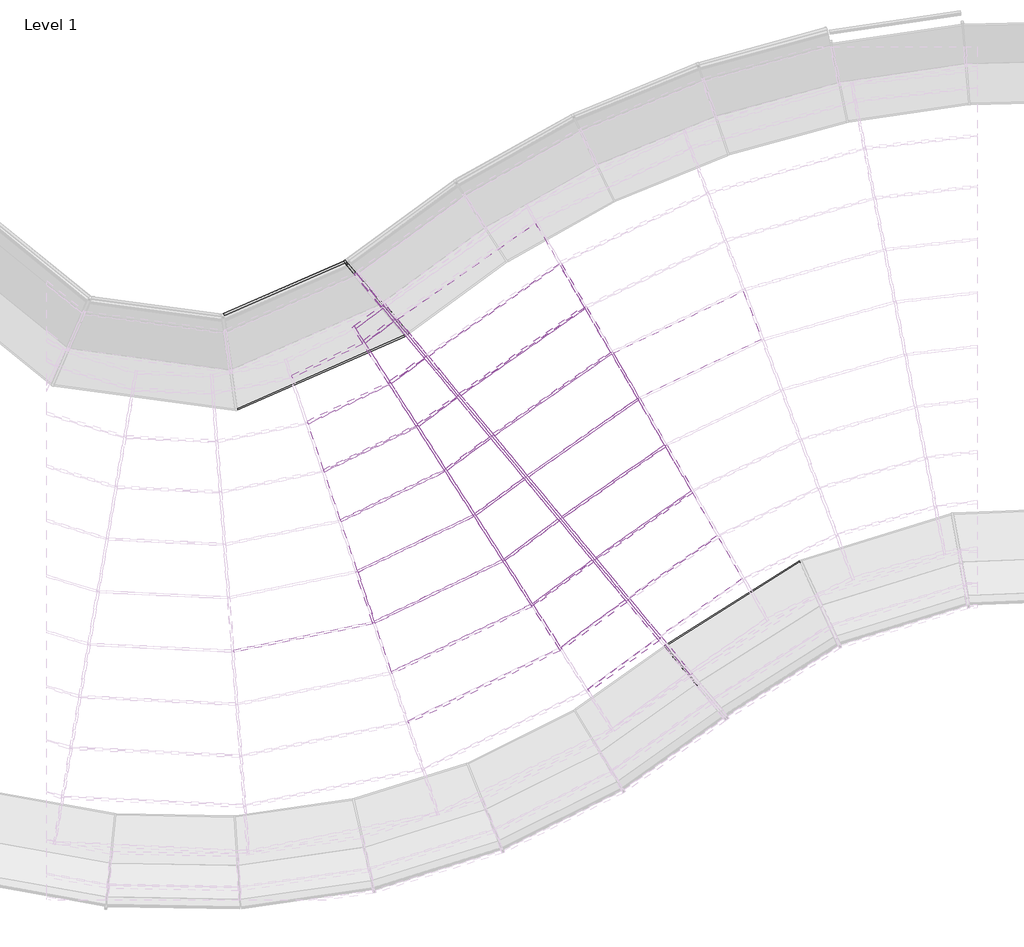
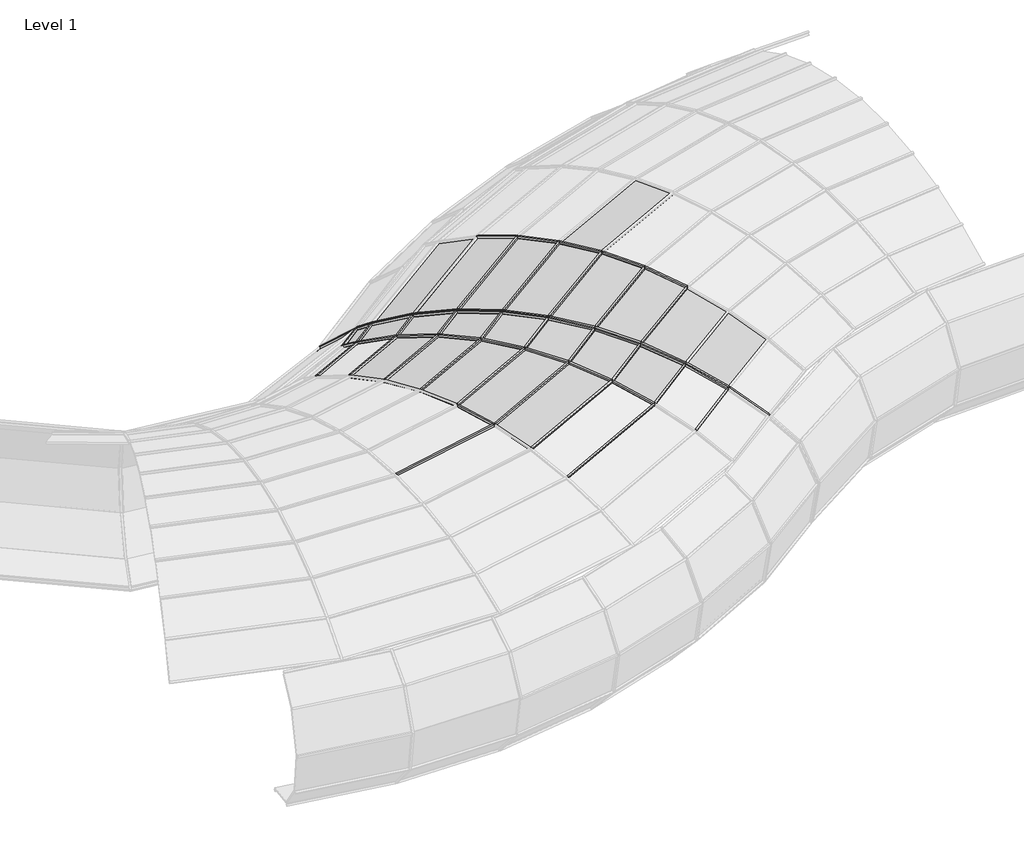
# One storey, part 7 of 23: 70 members, 22 plates.
"""IFC4 building model written with IfcOpenShell, lengths in millimetres."""

from ifc_helpers import new_model, si_unit, origin, place, context, project, spatial, transform, mapped, element, save
from components import member_da94d8b7, member_4a6620f8, member_4382594b, member_c4b67a82, member_09e3c60a, member_ff354828, member_c876edb5, member_88ffdf74, member_782630c7, member_6b724055, member_398e5ff5, member_61362789, member_0ea93e7c, member_4ad77235, member_01d9c279, member_724b312c, member_398607d0, member_12c77cbe, member_6b55b28e, member_04fa56c0, member_b16b9eb4, member_5ccaa950, member_ed473375, member_1e977d90, member_299080b6, member_172ab1ab, member_54499f2f, member_173a6c74, member_0cd36c09, member_d0a40a1c, member_ff9adfd2, member_8c9da58c, member_d6b8231b, member_916b48e0, member_15ddbe85, member_a6ff0e58, member_52a3ac57, member_58e85060, member_2f10e2aa, member_56cded33, member_ca6af547, member_2c27c1a6, member_cfe416e1, member_072b4eca, member_8050fb01, member_9defe418, member_57d99a8e, member_3bb0283d, member_54c9b6a8, member_1f55a63e, member_9f1fe171, member_9a79e7da, member_69edc900, system_panel_glazed_5132798e, system_panel_glazed_5b1ce257, system_panel_glazed_553bac9a, system_panel_glazed_7bf4cd1b, system_panel_glazed_fa5f9ab5, system_panel_glazed_9f229a92, system_panel_glazed_4f662df8, system_panel_glazed_a07c5774, system_panel_glazed_979220de, system_panel_glazed_4fd85c75, system_panel_glazed_ba917089, system_panel_glazed_62a807d2, system_panel_glazed_1a760a1a, system_panel_glazed_c234d933, system_panel_glazed_45c6f521, system_panel_glazed_a7bfc9ff, system_panel_glazed_a075d488, system_panel_glazed_9f62a084, system_panel_glazed_71638be0, system_panel_glazed_9237dc49, system_panel_glazed_82596321, system_panel_glazed_82ed8812

model = new_model("IFC4")

# Units and contexts
model_context = context("Model", 3, world=origin())
ifc_project = project(units=[si_unit("LENGTHUNIT", "METRE", prefix="MILLI")], contexts=[model_context])

# Site, building, storey
site = spatial("IfcSite", under=ifc_project)
building = spatial("IfcBuilding", under=site)
storey = spatial("IfcBuildingStorey", under=building, Name="Level 1", Elevation=0.0)

# Members
placement = place(None, origin())
member_shape = member_da94d8b7(model_context)
element("IfcMember", 1, ObjectType="Rectangular Mullion : 1\" Square", at=placement, inside=storey, context=model_context, shape_type="MappedRepresentation", body=[
    mapped(member_shape, transform((-4489.9913896, -7841.6452562, 0.0), x_axis=(-0.5112600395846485, 0.8116646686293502, -0.2825130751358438), y_axis=(0.1505714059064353, -0.23904369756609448, -0.9592634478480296), z_axis=(-0.8461332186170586, -0.5329714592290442, 0.0))),
])
member_2_shape = member_4a6620f8(model_context)
element("IfcMember", 2, ObjectType="Rectangular Mullion : 1\" Square", at=placement, inside=storey, context=model_context, shape_type="MappedRepresentation", body=[
    mapped(member_2_shape, transform((-4518.8359646, -5597.6563841, 2850.17796), x_axis=(-0.5707204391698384, 0.8169353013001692, 0.08303549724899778), y_axis=(0.047554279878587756, -0.06806970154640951, 0.9965465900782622), z_axis=(0.8197662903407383, 0.5726982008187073, 0.0))),
])
member_3_shape = member_4382594b(model_context)
element("IfcMember", 3, ObjectType="Rectangular Mullion : 1\" Square", at=placement, inside=storey, context=model_context, shape_type="MappedRepresentation", body=[
    mapped(member_3_shape, transform((-4825.2923278, -5070.8823003, 2864.5209769), x_axis=(-0.5723308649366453, 0.8192404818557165, -0.03581080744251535), y_axis=(-0.02050878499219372, 0.02935649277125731, 0.999358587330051), z_axis=(0.8197662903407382, 0.5726982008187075, 0.0))),
])
member_4_shape = member_c4b67a82(model_context)
element("IfcMember", 4, ObjectType="Rectangular Mullion : 1\" Square", at=placement, inside=storey, context=model_context, shape_type="MappedRepresentation", body=[
    mapped(member_4_shape, transform((-5130.4275491, -4546.3791542, 2806.2019711), x_axis=(-0.5658522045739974, 0.8099668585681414, -0.15415891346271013), y_axis=(-0.08828653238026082, 0.12637428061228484, 0.9880460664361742), z_axis=(0.8197662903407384, 0.5726982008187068, 0.0))),
])
member_5_shape = member_09e3c60a(model_context)
element("IfcMember", 5, ObjectType="Rectangular Mullion : 1\" Square", at=placement, inside=storey, context=model_context, shape_type="MappedRepresentation", body=[
    mapped(member_5_shape, transform((-5429.9006784, -4031.6086934, 2676.0506073), x_axis=(-0.5513709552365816, 0.7892382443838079, -0.27035728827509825), y_axis=(-0.1548331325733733, 0.22162979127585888, 0.9627600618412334), z_axis=(0.8197662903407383, 0.5726982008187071, 0.0))),
])
member_6_shape = member_ff354828(model_context)
element("IfcMember", 6, ObjectType="Rectangular Mullion : 1\" Square", at=placement, inside=storey, context=model_context, shape_type="MappedRepresentation", body=[
    mapped(member_6_shape, transform((-4215.4182046, -6119.2073508, 2763.3769688), x_axis=(-0.5610427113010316, 0.8030824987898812, 0.20072263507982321), y_axis=(0.11495349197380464, -0.16454564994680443, 0.9796481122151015), z_axis=(0.8197662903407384, 0.5726982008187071, 0.0))),
])
member_7_shape = member_c876edb5(model_context)
element("IfcMember", 7, ObjectType="Rectangular Mullion : 1\" Square", at=placement, inside=storey, context=model_context, shape_type="MappedRepresentation", body=[
    mapped(member_7_shape, transform((-7335.7836729, -5376.3649008, 2676.0506073), x_axis=(-0.4169348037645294, 0.8679644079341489, -0.26982059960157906), y_axis=(-0.1168307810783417, 0.24321538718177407, 0.9629106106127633), z_axis=(0.9013966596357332, 0.4329942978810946, 0.0))),
])
member_8_shape = member_88ffdf74(model_context)
element("IfcMember", 8, ObjectType="Rectangular Mullion : 1\" Square", at=placement, inside=storey, context=model_context, shape_type="MappedRepresentation", body=[
    mapped(member_8_shape, transform((-6877.5951271, -5043.676963, 2676.0506073), x_axis=(-0.5687139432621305, 0.7765169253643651, -0.27126723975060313), y_axis=(-0.16028343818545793, 0.21884957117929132, 0.9625040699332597), z_axis=(0.806767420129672, 0.590869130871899, 0.0))),
])
member_9_shape = member_782630c7(model_context)
element("IfcMember", 9, ObjectType="Rectangular Mullion : 1\" Square", at=placement, inside=storey, context=model_context, shape_type="MappedRepresentation", body=[
    mapped(member_9_shape, transform((-7647.2779636, -4892.0813161, 2475.91846), x_axis=(-0.40017197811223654, 0.8330679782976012, -0.381916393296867), y_axis=(-0.1653676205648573, 0.3442581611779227, 0.9241968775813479), z_axis=(0.9013966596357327, 0.4329942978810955, 0.0))),
])
member_10_shape = member_6b724055(model_context)
element("IfcMember", 10, ObjectType="Rectangular Mullion : 1\" Square", at=placement, inside=storey, context=model_context, shape_type="MappedRepresentation", body=[
    mapped(member_10_shape, transform((-7245.3126771, -4600.5707826, 2475.91846), x_axis=(-0.5456170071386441, 0.7449805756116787, -0.3838046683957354), y_axis=(-0.2267783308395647, 0.30964110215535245, 0.9234143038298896), z_axis=(0.8067674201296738, 0.5908691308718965, 0.0))),
])
member_11_shape = member_398e5ff5(model_context)
element("IfcMember", 11, ObjectType="Rectangular Mullion : 1\" Square", at=placement, inside=storey, context=model_context, shape_type="MappedRepresentation", body=[
    mapped(member_11_shape, transform((-7943.6663686, -4431.2830173, 2208.6526723), x_axis=(-0.37774860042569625, 0.786387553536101, -0.4887746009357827), y_axis=(-0.21163661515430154, 0.44057979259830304, 0.8724101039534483), z_axis=(0.9013966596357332, 0.43299429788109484, 0.0))),
])
member_12_shape = member_61362789(model_context)
element("IfcMember", 12, ObjectType="Rectangular Mullion : 1\" Square", at=placement, inside=storey, context=model_context, shape_type="MappedRepresentation", body=[
    mapped(member_12_shape, transform((-7595.1977998, -4178.9529941, 2208.6526723), x_axis=(-0.5147657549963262, 0.7028565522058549, -0.49092655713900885), y_axis=(-0.290073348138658, 0.3960635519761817, 0.8712009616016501), z_axis=(0.8067674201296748, 0.5908691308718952, 0.0))),
])
member_13_shape = member_0ea93e7c(model_context)
element("IfcMember", 13, ObjectType="Rectangular Mullion : 1\" Square", at=placement, inside=storey, context=model_context, shape_type="MappedRepresentation", body=[
    mapped(member_13_shape, transform((-6029.2614025, -7407.6293815, 2763.3769688), x_axis=(-0.4242954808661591, 0.8832876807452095, 0.19943976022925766), y_axis=(0.08635627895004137, -0.17977433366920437, 0.9799100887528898), z_axis=(0.901396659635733, 0.4329942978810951, 0.0))),
])
member_14_shape = member_4ad77235(model_context)
element("IfcMember", 14, ObjectType="Rectangular Mullion : 1\" Square", at=placement, inside=storey, context=model_context, shape_type="MappedRepresentation", body=[
    mapped(member_14_shape, transform((-5335.2517115, -6902.2281787, 2763.3769688), x_axis=(-0.5788620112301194, 0.7903730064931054, 0.20057238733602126), y_axis=(0.11851203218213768, -0.16181526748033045, 0.9796788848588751), z_axis=(0.8067674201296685, 0.5908691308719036, 0.0))),
])
member_15_shape = member_01d9c279(model_context)
element("IfcMember", 15, ObjectType="Rectangular Mullion : 1\" Square", at=placement, inside=storey, context=model_context, shape_type="MappedRepresentation", body=[
    mapped(member_15_shape, transform((-7824.936967, -7602.4746403, 2850.17796), x_axis=(-0.1982577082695, 0.9766974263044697, 0.08219500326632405), y_axis=(0.016351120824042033, -0.08055221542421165, 0.9966162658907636), z_axis=(0.9800135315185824, 0.19893083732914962, 0.0))),
])
element("IfcMember", 16, ObjectType="Rectangular Mullion : 1\" Square", at=placement, inside=storey, context=model_context, shape_type="MappedRepresentation", body=[
    mapped(member_15_shape, transform((-6355.6737379, -6900.1525493, 2850.17796), x_axis=(-0.43152916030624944, 0.898346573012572, 0.08219500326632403), y_axis=(0.03558996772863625, -0.07409030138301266, 0.9966162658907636), z_axis=(0.9013966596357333, 0.43299429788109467, 0.0))),
])
member_16_shape = member_724b312c(model_context)
element("IfcMember", 17, ObjectType="Rectangular Mullion : 1\" Square", at=placement, inside=storey, context=model_context, shape_type="MappedRepresentation", body=[
    mapped(member_16_shape, transform((-5720.5799434, -6437.900814, 2850.17796), x_axis=(-0.5888457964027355, 0.8040047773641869, 0.08268582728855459), y_axis=(0.04885650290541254, -0.06670823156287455, 0.9965756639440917), z_axis=(0.8067674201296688, 0.5908691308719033, 0.0))),
])
member_17_shape = member_398607d0(model_context)
element("IfcMember", 18, ObjectType="Rectangular Mullion : 1\" Square", at=placement, inside=storey, context=model_context, shape_type="MappedRepresentation", body=[
    mapped(member_17_shape, transform((-6685.3549578, -6387.5935467, 2864.5209769), x_axis=(-0.43271099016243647, 0.9008068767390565, -0.036168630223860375), y_axis=(-0.015660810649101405, 0.03260228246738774, 0.9993457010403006), z_axis=(0.9013966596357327, 0.43299429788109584, 0.0))),
])
member_18_shape = member_12c77cbe(model_context)
element("IfcMember", 19, ObjectType="Rectangular Mullion : 1\" Square", at=placement, inside=storey, context=model_context, shape_type="MappedRepresentation", body=[
    mapped(member_18_shape, transform((-5710.7615966, -7902.8045174, 2605.3528615), x_axis=(-0.41109956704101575, 0.855816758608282, 0.31396627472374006), y_axis=(0.13594560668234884, -0.28300815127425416, 0.9494341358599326), z_axis=(0.901396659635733, 0.43299429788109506, 0.0))),
])
member_19_shape = member_6b55b28e(model_context)
element("IfcMember", 20, ObjectType="Rectangular Mullion : 1\" Square", at=placement, inside=storey, context=model_context, shape_type="MappedRepresentation", body=[
    mapped(member_19_shape, transform((-4959.2641837, -7355.2998292, 2605.3528615), x_axis=(-0.5606647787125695, 0.7655266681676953, 0.3156325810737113), y_axis=(0.18649754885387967, -0.25464208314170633, 0.9488814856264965), z_axis=(0.806767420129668, 0.5908691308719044, 0.0))),
])
member_20_shape = member_04fa56c0(model_context)
element("IfcMember", 21, ObjectType="Rectangular Mullion : 1\" Square", at=placement, inside=storey, context=model_context, shape_type="MappedRepresentation", body=[
    mapped(member_20_shape, transform((-4597.9662774, -7790.6702248, 2378.3537392), x_axis=(-0.5345056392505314, 0.729809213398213, 0.42624198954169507), y_axis=(0.2518532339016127, -0.3438781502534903, 0.9046091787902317), z_axis=(0.8067674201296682, 0.5908691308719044, 0.0))),
])
member_21_shape = member_b16b9eb4(model_context)
element("IfcMember", 22, ObjectType="Rectangular Mullion : 1\" Square", at=placement, inside=storey, context=model_context, shape_type="MappedRepresentation", body=[
    mapped(member_21_shape, transform((-6109.7670779, -5968.9234028, 2864.5209769), x_axis=(-0.5904782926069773, 0.8062337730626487, -0.0363660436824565), y_axis=(-0.021487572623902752, 0.02933893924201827, 0.9993385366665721), z_axis=(0.8067674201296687, 0.5908691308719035, 0.0))),
])
member_22_shape = member_5ccaa950(model_context)
element("IfcMember", 23, ObjectType="Rectangular Mullion : 1\" Square", at=placement, inside=storey, context=model_context, shape_type="MappedRepresentation", body=[
    mapped(member_22_shape, transform((-7013.6149127, -5877.2442002, 2806.2019711), x_axis=(-0.4278261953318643, 0.8906378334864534, -0.1540421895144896), y_axis=(-0.06669938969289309, 0.13885311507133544, 0.9880642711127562), z_axis=(0.9013966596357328, 0.43299429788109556, 0.0))),
])
member_23_shape = member_ed473375(model_context)
element("IfcMember", 24, ObjectType="Rectangular Mullion : 1\" Square", at=placement, inside=storey, context=model_context, shape_type="MappedRepresentation", body=[
    mapped(member_23_shape, transform((-6497.276416, -5501.9677663, 2806.2019711), x_axis=(-0.5837367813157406, 0.7970289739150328, -0.15490702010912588), y_axis=(-0.09152977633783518, 0.12497393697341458, 0.9879290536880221), z_axis=(0.806767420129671, 0.5908691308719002, 0.0))),
])
member_24_shape = member_1e977d90(model_context)
element("IfcMember", 25, ObjectType="Rectangular Mullion : 1\" Square", at=placement, inside=storey, context=model_context, shape_type="MappedRepresentation", body=[
    mapped(member_24_shape, transform((-7727.1639888, -4019.9313919, 2085.6089632), x_axis=(-0.5074428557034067, 0.6928579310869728, -0.5122983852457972), y_axis=(-0.3027013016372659, 0.4133056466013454, 0.8588075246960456), z_axis=(0.8067674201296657, 0.5908691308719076, 0.0))),
])
member_25_shape = member_299080b6(model_context)
element("IfcMember", 26, ObjectType="Rectangular Mullion : 1\" Square", at=placement, inside=storey, context=model_context, shape_type="MappedRepresentation", body=[
    mapped(member_25_shape, transform((-8148.9438553, -3515.3209351, 1116.1918244), x_axis=(-0.011000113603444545, 0.025056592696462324, -0.9996255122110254), y_axis=(-0.4018290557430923, 0.915305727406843, 0.02736485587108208), z_axis=(0.9156486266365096, 0.40197959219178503, 0.0))),
])
member_26_shape = member_172ab1ab(model_context)
element("IfcMember", 27, ObjectType="Rectangular Mullion : 1\" Square", at=placement, inside=storey, context=model_context, shape_type="MappedRepresentation", body=[
    mapped(member_26_shape, transform((-7459.38962, -4355.6536205, 0.0), x_axis=(0.3905545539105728, -0.8896241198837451, -0.23671938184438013), y_axis=(-0.09515636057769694, 0.21675177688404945, -0.9715780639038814), z_axis=(0.9156486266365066, 0.4019795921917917, 0.0))),
])
member_27_shape = member_54499f2f(model_context)
element("IfcMember", 28, ObjectType="Rectangular Mullion : 1\" Square", at=placement, inside=storey, context=model_context, shape_type="MappedRepresentation", body=[
    mapped(member_27_shape, transform((-8050.414729, -3635.3945146, 526.7119632), x_axis=(0.21232057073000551, -0.48363410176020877, -0.8491278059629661), y_axis=(-0.341332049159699, 0.7775027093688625, -0.5281874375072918), z_axis=(0.9156486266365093, 0.4019795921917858, 0.0))),
])
member_28_shape = member_173a6c74(model_context)
element("IfcMember", 29, ObjectType="Rectangular Mullion : 1\" Square", at=placement, inside=storey, context=model_context, shape_type="MappedRepresentation", body=[
    mapped(member_28_shape, transform((-5700.0880509, -6422.892738, 2850.17796), x_axis=(0.7695535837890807, 0.6385806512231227, 0.001426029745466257), y_axis=(0.013927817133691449, -0.01901691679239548, 0.9997221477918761), z_axis=(0.6384303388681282, -0.7693199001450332, -0.023528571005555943))),
])
member_29_shape = member_0cd36c09(model_context)
element("IfcMember", 30, ObjectType="Rectangular Mullion : 1\" Square", at=placement, inside=storey, context=model_context, shape_type="MappedRepresentation", body=[
    mapped(member_29_shape, transform((-4205.0071727, -6111.9340836, 2763.3769688), x_axis=(0.8643700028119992, 0.5028563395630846, 0.0), y_axis=(0.07160175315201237, -0.12307771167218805, 0.9898106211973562), z_axis=(0.4977325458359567, -0.8555626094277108, -0.14239007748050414))),
])
element("IfcMember", 31, ObjectType="Rectangular Mullion : 1\" Square", at=placement, inside=storey, context=model_context, shape_type="MappedRepresentation", body=[
    mapped(member_29_shape, transform((-4508.4249327, -5590.3831169, 2850.17796), x_axis=(0.8643700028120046, 0.5028563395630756, 0.0), y_axis=(0.011831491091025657, -0.020337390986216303, 0.9997231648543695), z_axis=(0.5027171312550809, -0.8641307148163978, -0.023528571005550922))),
])
element("IfcMember", 32, ObjectType="Rectangular Mullion : 1\" Square", at=placement, inside=storey, context=model_context, shape_type="MappedRepresentation", body=[
    mapped(member_29_shape, transform((-7812.4907951, -7599.9482187, 2850.17796), x_axis=(0.9479570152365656, 0.31839833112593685, 0.0), y_axis=(0.007491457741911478, -0.022304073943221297, 0.9997231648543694), z_axis=(0.31831018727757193, -0.9476945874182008, -0.02352857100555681))),
])
element("IfcMember", 33, ObjectType="Rectangular Mullion : 1\" Square", at=placement, inside=storey, context=model_context, shape_type="MappedRepresentation", body=[
    mapped(member_29_shape, transform((-5699.3138591, -7897.3054898, 2605.3528615), x_axis=(0.841044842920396, 0.5409654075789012, 0.0), y_axis=(0.1402322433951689, -0.218020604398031, 0.965816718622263), z_axis=(0.5224734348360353, -0.8122951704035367, -0.259225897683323))),
])
element("IfcMember", 34, ObjectType="Rectangular Mullion : 1\" Square", at=placement, inside=storey, context=model_context, shape_type="MappedRepresentation", body=[
    mapped(member_29_shape, transform((-6017.813665, -7402.1303539, 2763.3769688), x_axis=(0.8410448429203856, 0.5409654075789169, 0.0), y_axis=(0.07702810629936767, -0.11975644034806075, 0.9898106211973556), z_axis=(0.5354533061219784, -0.8324751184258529, -0.14239007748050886))),
])
element("IfcMember", 35, ObjectType="Rectangular Mullion : 1\" Square", at=placement, inside=storey, context=model_context, shape_type="MappedRepresentation", body=[
    mapped(member_29_shape, transform((-6344.2260004, -6894.6535217, 2850.17796), x_axis=(0.8410448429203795, 0.5409654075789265, 0.0), y_axis=(0.012728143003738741, -0.019788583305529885, 0.9997231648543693), z_axis=(0.5408156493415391, -0.8408120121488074, -0.023528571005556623))),
])
element("IfcMember", 36, ObjectType="Rectangular Mullion : 1\" Square", at=placement, inside=storey, context=model_context, shape_type="MappedRepresentation", body=[
    mapped(member_29_shape, transform((-4814.8812959, -5063.6090332, 2864.5209769), x_axis=(0.8643700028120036, 0.5028563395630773, 0.0), y_axis=(-0.04810708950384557, 0.08269225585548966, 0.9954133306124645), z_axis=(0.5005499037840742, -0.8604054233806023, 0.09566766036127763))),
])
element("IfcMember", 37, ObjectType="Rectangular Mullion : 1\" Square", at=placement, inside=storey, context=model_context, shape_type="MappedRepresentation", body=[
    mapped(member_29_shape, transform((-5120.0165172, -4539.1058871, 2806.2019711), x_axis=(0.8643700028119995, 0.5028563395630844, 0.0), y_axis=(-0.10736128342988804, 0.18454549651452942, 0.9769424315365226), z_axis=(0.4912616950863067, -0.8444397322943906, 0.21350289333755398))),
])
element("IfcMember", 38, ObjectType="Rectangular Mullion : 1\" Square", at=placement, inside=storey, context=model_context, shape_type="MappedRepresentation", body=[
    mapped(member_29_shape, transform((-5419.4896466, -4024.3354263, 2676.0506073), x_axis=(0.8643700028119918, 0.5028563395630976, 0.0), y_axis=(-0.16508812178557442, 0.2837733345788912, 0.9445732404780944), z_axis=(0.4749846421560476, -0.8164607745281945, 0.3283007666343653))),
])
element("IfcMember", 39, ObjectType="Rectangular Mullion : 1\" Square", at=placement, inside=storey, context=model_context, shape_type="MappedRepresentation", body=[
    mapped(member_29_shape, transform((-6673.9072202, -6382.0945191, 2864.5209769), x_axis=(0.8410448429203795, 0.5409654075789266, 0.0), y_axis=(-0.05175289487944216, 0.0804607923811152, 0.995413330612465), z_axis=(0.5384841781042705, -0.8371872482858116, 0.09566766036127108))),
])
element("IfcMember", 40, ObjectType="Rectangular Mullion : 1\" Square", at=placement, inside=storey, context=model_context, shape_type="MappedRepresentation", body=[
    mapped(member_29_shape, transform((-7002.1671752, -5871.7451726, 2806.2019711), x_axis=(0.8410448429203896, 0.540965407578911, 0.0), y_axis=(-0.11549767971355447, 0.17956550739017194, 0.9769424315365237), z_axis=(0.5284920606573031, -0.8216523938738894, 0.21350289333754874))),
])
element("IfcMember", 41, ObjectType="Rectangular Mullion : 1\" Square", at=placement, inside=storey, context=model_context, shape_type="MappedRepresentation", body=[
    mapped(member_29_shape, transform((-7324.3359353, -5370.8658733, 2676.0506073), x_axis=(0.8410448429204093, 0.5409654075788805, 0.0), y_axis=(-0.17759935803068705, 0.2761156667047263, 0.9445732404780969), z_axis=(0.5109814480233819, -0.7944284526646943, 0.3283007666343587))),
])
member_30_shape = member_d0a40a1c(model_context)
element("IfcMember", 42, ObjectType="Rectangular Mullion : 1\" Square", at=placement, inside=storey, context=model_context, shape_type="MappedRepresentation", body=[
    mapped(member_30_shape, transform((-7635.8302261, -4886.5822885, 2475.91846), x_axis=(0.841044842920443, 0.5409654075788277, 0.0), y_axis=(-0.23717445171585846, 0.36873771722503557, 0.8987662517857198), z_axis=(0.4862014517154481, -0.7559027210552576, 0.4384281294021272))),
])
member_31_shape = member_ff9adfd2(model_context)
element("IfcMember", 43, ObjectType="Rectangular Mullion : 1\" Square", at=placement, inside=storey, context=model_context, shape_type="MappedRepresentation", body=[
    mapped(member_31_shape, transform((-7932.218631, -4425.7839898, 2208.6526723), x_axis=(0.8410448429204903, 0.5409654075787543, 0.0), y_axis=(-0.2767608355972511, 0.4302831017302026, 0.8592205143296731), z_axis=(0.46480857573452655, -0.7226429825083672, 0.5116054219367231))),
])
member_32_shape = member_8c9da58c(model_context)
element("IfcMember", 44, ObjectType="Rectangular Mullion : 1\" Square", at=placement, inside=storey, context=model_context, shape_type="MappedRepresentation", body=[
    mapped(member_32_shape, transform((-8019.1399957, -3654.2311779, 1696.6281859), x_axis=(0.773050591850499, 0.6343443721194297, 0.0), y_axis=(-0.6039969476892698, 0.7360673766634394, 0.30560187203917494), z_axis=(0.1938568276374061, -0.2362457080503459, 0.9521593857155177))),
])
element("IfcMember", 45, ObjectType="Rectangular Mullion : 1\" Square", at=placement, inside=storey, context=model_context, shape_type="MappedRepresentation", body=[
    mapped(member_32_shape, transform((-8137.3151178, -3510.2157943, 1116.1918244), x_axis=(0.7730505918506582, 0.6343443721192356, 0.0), y_axis=(-0.6134075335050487, 0.7475356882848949, -0.25479715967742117), z_axis=(-0.16162914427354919, 0.19697109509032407, 0.9669945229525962))),
])
member_33_shape = member_d6b8231b(model_context)
element("IfcMember", 46, ObjectType="Rectangular Mullion : 1\" Square", at=placement, inside=storey, context=model_context, shape_type="MappedRepresentation", body=[
    mapped(member_33_shape, transform((-7721.3991846, -4017.0762197, 2085.6089632), x_axis=(0.773050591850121, 0.63434437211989, 0.0), y_axis=(-0.4047699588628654, 0.4932772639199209, 0.7699602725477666), z_axis=(0.48841996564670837, -0.5952182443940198, 0.6380918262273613))),
])
member_34_shape = member_916b48e0(model_context)
element("IfcMember", 47, ObjectType="Rectangular Mullion : 1\" Square", at=placement, inside=storey, context=model_context, shape_type="MappedRepresentation", body=[
    mapped(member_34_shape, transform((-7706.6720964, -4004.923316, 2085.6089632), x_axis=(-0.7827135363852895, -0.6213115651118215, 0.03648916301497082), y_axis=(-0.29373978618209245, 0.42046225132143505, 0.8584453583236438), z_axis=(-0.548704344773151, 0.661198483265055, -0.5116054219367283))),
])
member_35_shape = member_15ddbe85(model_context)
element("IfcMember", 48, ObjectType="Rectangular Mullion : 1\" Square", at=placement, inside=storey, context=model_context, shape_type="MappedRepresentation", body=[
    mapped(member_35_shape, transform((-4577.4743849, -7775.6621489, 2378.3537392), x_axis=(-0.7811473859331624, -0.6233665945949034, -0.03496927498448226), y_axis=(0.2757518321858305, -0.3947141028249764, 0.8764483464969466), z_axis=(-0.5601514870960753, 0.6749924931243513, 0.4802243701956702))),
])
member_36_shape = member_a6ff0e58(model_context)
element("IfcMember", 49, ObjectType="Rectangular Mullion : 1\" Square", at=placement, inside=storey, context=model_context, shape_type="MappedRepresentation", body=[
    mapped(member_36_shape, transform((-4938.7722912, -7340.2917533, 2605.3528615), x_axis=(-0.7765185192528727, -0.6294404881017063, -0.028699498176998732), y_axis=(0.21389029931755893, -0.30616484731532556, 0.9276389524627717), z_axis=(-0.5926802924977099, 0.7141902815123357, 0.3723738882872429))),
])
member_37_shape = member_52a3ac57(model_context)
element("IfcMember", 50, ObjectType="Rectangular Mullion : 1\" Square", at=placement, inside=storey, context=model_context, shape_type="MappedRepresentation", body=[
    mapped(member_37_shape, transform((-5314.759819, -6887.2201028, 2763.3769688), x_axis=(-0.7729190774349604, -0.6341637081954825, -0.02079641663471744), y_axis=(0.14893518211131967, -0.21318740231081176, 0.9655927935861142), z_axis=(-0.6167774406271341, 0.7432277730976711, 0.2592258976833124))),
])
element("IfcMember", 51, ObjectType="Rectangular Mullion : 1\" Square", at=placement, inside=storey, context=model_context, shape_type="MappedRepresentation", body=[
    mapped(member_37_shape, transform((-6857.1032347, -5028.668887, 2676.0506073), x_axis=(0.7735525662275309, 0.6334533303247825, -0.018796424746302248), y_axis=(-0.19430046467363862, 0.265296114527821, 0.9443862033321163), z_axis=(0.6032112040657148, -0.7268802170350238, 0.32830076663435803))),
])
member_38_shape = member_58e85060(model_context)
element("IfcMember", 52, ObjectType="Rectangular Mullion : 1\" Square", at=placement, inside=storey, context=model_context, shape_type="MappedRepresentation", body=[
    mapped(member_38_shape, transform((-5700.0880509, -6422.892738, 2850.17796), x_axis=(-0.7705547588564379, -0.637266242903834, -0.011708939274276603), y_axis=(0.08182178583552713, -0.11712057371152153, 0.9897413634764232), z_axis=(-0.6321001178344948, 0.7616918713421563, 0.14239007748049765))),
])
element("IfcMember", 53, ObjectType="Rectangular Mullion : 1\" Square", at=placement, inside=storey, context=model_context, shape_type="MappedRepresentation", body=[
    mapped(member_38_shape, transform((-6476.7845235, -5486.9596904, 2806.2019711), x_axis=(0.7712331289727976, 0.6364272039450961, -0.012644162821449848), y_axis=(-0.12637330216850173, 0.17254897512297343, 0.9768606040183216), z_axis=(0.6238824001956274, -0.7517893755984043, 0.2135028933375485))),
])
member_39_shape = member_2f10e2aa(model_context)
element("IfcMember", 54, ObjectType="Rectangular Mullion : 1\" Square", at=placement, inside=storey, context=model_context, shape_type="MappedRepresentation", body=[
    mapped(member_39_shape, transform((-6089.2751855, -5953.9153269, 2864.5209769), x_axis=(-0.7695608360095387, -0.6385705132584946, -0.00195429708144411), y_axis=(0.013521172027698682, -0.019354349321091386, 0.9997212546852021), z_axis=(-0.6384303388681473, 0.7693199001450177, 0.023528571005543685))),
])
member_40_shape = member_56cded33(model_context)
element("IfcMember", 55, ObjectType="Rectangular Mullion : 1\" Square", at=placement, inside=storey, context=model_context, shape_type="MappedRepresentation", body=[
    mapped(member_40_shape, transform((-6476.7845235, -5486.9596904, 2806.2019711), x_axis=(-0.7699942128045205, -0.6380018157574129, 0.007911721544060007), y_axis=(-0.05497573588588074, 0.07869285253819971, 0.9953818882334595), z_axis=(-0.6356780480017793, 0.766003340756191, -0.09566766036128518))),
])
element("IfcMember", 56, ObjectType="Rectangular Mullion : 1\" Square", at=placement, inside=storey, context=model_context, shape_type="MappedRepresentation", body=[
    mapped(member_40_shape, transform((-5314.759819, -6887.2201028, 2763.3769688), x_axis=(0.7702891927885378, 0.637637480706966, 0.008544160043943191), y_axis=(0.0842852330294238, -0.11508230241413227, 0.9897737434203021), z_axis=(0.6321001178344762, -0.7616918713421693, -0.14239007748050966))),
])
member_41_shape = member_ca6af547(model_context)
element("IfcMember", 57, ObjectType="Rectangular Mullion : 1\" Square", at=placement, inside=storey, context=model_context, shape_type="MappedRepresentation", body=[
    mapped(member_41_shape, transform((-6857.1032347, -5028.668887, 2676.0506073), x_axis=(-0.7718300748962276, -0.635592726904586, 0.017326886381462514), y_axis=(-0.12267471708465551, 0.1755978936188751, 0.9767887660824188), z_axis=(-0.6238824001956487, 0.751789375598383, -0.21350289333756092))),
])
element("IfcMember", 58, ObjectType="Rectangular Mullion : 1\" Square", at=placement, inside=storey, context=model_context, shape_type="MappedRepresentation", body=[
    mapped(member_41_shape, transform((-4938.7722912, -7340.2917533, 2605.3528615), x_axis=(0.7720392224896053, 0.6353936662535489, 0.01517655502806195), y_axis=(0.15343085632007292, -0.2094931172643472, 0.965697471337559), z_axis=(0.6167774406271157, -0.7432277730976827, -0.25922589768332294))),
])
member_42_shape = member_2c27c1a6(model_context)
element("IfcMember", 59, ObjectType="Rectangular Mullion : 1\" Square", at=placement, inside=storey, context=model_context, shape_type="MappedRepresentation", body=[
    mapped(member_42_shape, transform((-7224.8207847, -4585.5627067, 2475.91846), x_axis=(-0.7749633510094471, -0.6314811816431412, 0.02575503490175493), y_axis=(-0.18859493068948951, 0.2699567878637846, 0.9442220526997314), z_axis=(-0.6032112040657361, 0.7268802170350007, -0.3283007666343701))),
])
member_43_shape = member_cfe416e1(model_context)
element("IfcMember", 60, ObjectType="Rectangular Mullion : 1\" Square", at=placement, inside=storey, context=model_context, shape_type="MappedRepresentation", body=[
    mapped(member_43_shape, transform((-7574.7059074, -4163.9449181, 2208.6526723), x_axis=(-0.7792148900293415, -0.625902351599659, 0.032716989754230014), y_axis=(-0.2517851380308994, 0.3604079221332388, 0.898170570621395), z_axis=(-0.5739585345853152, 0.6916302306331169, -0.43842812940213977))),
])
member_44_shape = member_072b4eca(model_context)
element("IfcMember", 61, ObjectType="Rectangular Mullion : 1\" Square", at=placement, inside=storey, context=model_context, shape_type="MappedRepresentation", body=[
    mapped(member_44_shape, transform((-7431.1949615, -4336.8781574, 0.0), x_axis=(-0.7714841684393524, -0.6361048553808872, -0.013520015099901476), y_axis=(-0.13515039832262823, 0.18460447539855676, -0.9734760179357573), z_axis=(0.6217286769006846, -0.74919410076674, -0.22838925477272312))),
])
member_45_shape = member_8050fb01(model_context)
element("IfcMember", 62, ObjectType="Rectangular Mullion : 1\" Square", at=placement, inside=storey, context=model_context, shape_type="MappedRepresentation", body=[
    mapped(member_45_shape, transform((-4577.4743849, -7775.6621489, 2378.3537392), x_axis=(0.7747039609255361, 0.6319770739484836, 0.020946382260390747), y_axis=(0.22037205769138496, -0.300894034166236, 0.9278463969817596), z_axis=(0.5926802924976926, -0.714190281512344, -0.3723738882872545))),
])
member_46_shape = member_9defe418(model_context)
element("IfcMember", 63, ObjectType="Rectangular Mullion : 1\" Square", at=placement, inside=storey, context=model_context, shape_type="MappedRepresentation", body=[
    mapped(member_46_shape, transform((-6089.2751855, -5953.9153269, 2864.5209769), x_axis=(0.7698743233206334, 0.6381694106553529, -0.005773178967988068), y_axis=(-0.05662990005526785, 0.07732195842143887, 0.9953965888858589), z_axis=(0.6356780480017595, -0.7660033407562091, 0.09566766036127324))),
])
member_47_shape = member_57d99a8e(model_context)
element("IfcMember", 64, ObjectType="Rectangular Mullion : 1\" Square", at=placement, inside=storey, context=model_context, shape_type="MappedRepresentation", body=[
    mapped(member_47_shape, transform((-7224.8207847, -4585.5627067, 2475.91846), x_axis=(0.7767005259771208, 0.6294171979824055, -0.023880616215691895), y_axis=(-0.2594376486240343, 0.35423384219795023, 0.8984489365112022), z_axis=(0.5739585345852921, -0.6916302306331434, 0.43842812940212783))),
])
member_48_shape = member_3bb0283d(model_context)
element("IfcMember", 65, ObjectType="Rectangular Mullion : 1\" Square", at=placement, inside=storey, context=model_context, shape_type="MappedRepresentation", body=[
    mapped(member_48_shape, transform((-7574.7059074, -4163.9449181, 2208.6526723), x_axis=(0.7792916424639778, 0.6260950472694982, -0.026636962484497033), y_axis=(-0.3027013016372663, 0.413305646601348, 0.8588075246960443), z_axis=(0.5487043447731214, -0.6611984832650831, 0.5116054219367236))),
])
member_49_shape = member_54c9b6a8(model_context)
element("IfcMember", 66, ObjectType="Rectangular Mullion : 1\" Square", at=placement, inside=storey, context=model_context, shape_type="MappedRepresentation", body=[
    mapped(member_49_shape, transform((-4511.4831733, -7855.1827313, 0.0), x_axis=(0.7731223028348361, 0.6339365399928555, -0.02015857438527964), y_axis=(0.16280010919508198, -0.22906174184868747, -0.9597014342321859), z_axis=(-0.6130073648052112, 0.7386847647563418, -0.2802976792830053))),
])
member_50_shape = member_1f55a63e(model_context)
element("IfcMember", 67, ObjectType="Rectangular Mullion : 1\" Square", at=placement, inside=storey, context=model_context, shape_type="MappedRepresentation", body=[
    mapped(member_50_shape, transform((-8006.4137076, -3643.7293495, 1696.6281859), x_axis=(0.7711301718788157, 0.6366770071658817, -0.0008040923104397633), y_axis=(-0.6060288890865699, 0.7343957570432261, 0.305600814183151), z_axis=(0.19515953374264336, -0.23517070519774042, 0.9521593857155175))),
])
member_51_shape = member_9f1fe171(model_context)
element("IfcMember", 68, ObjectType="Rectangular Mullion : 1\" Square", at=placement, inside=storey, context=model_context, shape_type="MappedRepresentation", body=[
    mapped(member_51_shape, transform((-8125.3829594, -3500.3692876, 1116.1918244), x_axis=(0.77118033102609, 0.6366163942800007, 0.0006808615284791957), y_axis=(-0.6154710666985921, 0.7458379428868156, -0.2547962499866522), z_axis=(-0.16271528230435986, 0.1960748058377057, 0.966994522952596))),
])
member_52_shape = member_9a79e7da(model_context)
element("IfcMember", 69, ObjectType="Rectangular Mullion : 1\" Square", at=placement, inside=storey, context=model_context, shape_type="MappedRepresentation", body=[
    mapped(member_52_shape, transform((-8026.1917233, -3619.8964892, 526.7119632), x_axis=(0.7703426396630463, 0.6376286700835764, 0.0013771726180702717), y_axis=(-0.43149175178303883, 0.5228887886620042, -0.7351205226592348), z_axis=(-0.46945402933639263, 0.5657004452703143, 0.6779350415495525))),
])
member_53_shape = member_69edc900(model_context)
element("IfcMember", 70, ObjectType="Rectangular Mullion : 1\" Square", at=placement, inside=storey, context=model_context, shape_type="MappedRepresentation", body=[
    mapped(member_53_shape, transform((-7706.6720964, -4004.923316, 2085.6089632), x_axis=(0.7702502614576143, 0.6377403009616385, -0.0013576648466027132), y_axis=(-0.4061324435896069, 0.49215796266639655, 0.769959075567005), z_axis=(0.4917021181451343, -0.5925097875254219, 0.63809182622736))),
])

# Plates
system_panel_glazed_shape = system_panel_glazed_5132798e(model_context)
element("IfcPlate", 71, ObjectType="System Panel : Glazed", at=placement, inside=storey, context=model_context, shape_type="MappedRepresentation", body=[
    mapped(system_panel_glazed_shape, transform((-5331.421451, -7612.6625809, 2608.6506677), x_axis=(0.8067674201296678, 0.5908691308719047, 0.0), y_axis=(-0.1534308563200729, 0.20949311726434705, -0.965697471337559), z_axis=(-0.5706008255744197, 0.7790932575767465, 0.2596697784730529))),
])
system_panel_glazed_2_shape = system_panel_glazed_5b1ce257(model_context)
element("IfcPlate", 72, ObjectType="System Panel : Glazed", at=placement, inside=storey, context=model_context, shape_type="MappedRepresentation", body=[
    mapped(system_panel_glazed_2_shape, transform((-6824.5354177, -7775.7031782, 2765.1989775), x_axis=(0.9013966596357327, 0.4329942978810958, 0.0), y_axis=(-0.06211963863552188, 0.12931910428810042, -0.9896553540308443), z_axis=(-0.4285151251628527, 0.8920720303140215, 0.14346525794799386))),
])
system_panel_glazed_3_shape = system_panel_glazed_553bac9a(model_context)
element("IfcPlate", 73, ObjectType="System Panel : Glazed", at=placement, inside=storey, context=model_context, shape_type="MappedRepresentation", body=[
    mapped(system_panel_glazed_3_shape, transform((-5678.8462296, -7138.2928275, 2765.1885754), x_axis=(0.8067674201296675, 0.5908691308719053, 0.0), y_axis=(-0.08428523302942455, 0.11508230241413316, -0.989773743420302), z_axis=(-0.5848267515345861, 0.7985172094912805, 0.1426461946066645))),
])
system_panel_glazed_4_shape = system_panel_glazed_7bf4cd1b(model_context)
element("IfcPlate", 74, ObjectType="System Panel : Glazed", at=placement, inside=storey, context=model_context, shape_type="MappedRepresentation", body=[
    mapped(system_panel_glazed_4_shape, transform((-7083.8558794, -7235.8563508, 2850.4790751), x_axis=(0.9013966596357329, 0.4329942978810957, 0.0), y_axis=(-0.010266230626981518, 0.02137198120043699, -0.999718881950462), z_axis=(-0.4328725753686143, 0.901143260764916, 0.023709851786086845))),
])
system_panel_glazed_5_shape = system_panel_glazed_fa5f9ab5(model_context)
element("IfcPlate", 75, ObjectType="System Panel : Glazed", at=placement, inside=storey, context=model_context, shape_type="MappedRepresentation", body=[
    mapped(system_panel_glazed_5_shape, transform((-6034.7913524, -6652.2889345, 2850.4773212), x_axis=(0.8067674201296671, 0.5908691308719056, 0.0), y_axis=(-0.013927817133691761, 0.019016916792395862, -0.9997221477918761), z_axis=(-0.5907049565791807, 0.8065432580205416, 0.02357174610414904))),
])
system_panel_glazed_6_shape = system_panel_glazed_9f229a92(model_context)
element("IfcPlate", 76, ObjectType="System Panel : Glazed", at=placement, inside=storey, context=model_context, shape_type="MappedRepresentation", body=[
    mapped(system_panel_glazed_6_shape, transform((-7345.6933704, -6690.7696351, 2863.296718), x_axis=(0.9013966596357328, 0.4329942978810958, 0.0), y_axis=(0.041739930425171, -0.0868931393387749, -0.9953428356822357), z_axis=(-0.4309777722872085, 0.8971987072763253, -0.0963983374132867))),
])
system_panel_glazed_7_shape = system_panel_glazed_4f662df8(model_context)
element("IfcPlate", 77, ObjectType="System Panel : Glazed", at=placement, inside=storey, context=model_context, shape_type="MappedRepresentation", body=[
    mapped(system_panel_glazed_7_shape, transform((-6394.1929893, -6161.5649877, 2863.3037873), x_axis=(0.8067674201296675, 0.5908691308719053, 0.0), y_axis=(0.05662990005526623, -0.07732195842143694, -0.9953965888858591), z_axis=(-0.5881491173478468, 0.8030535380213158, -0.09584169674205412))),
])
system_panel_glazed_8_shape = system_panel_glazed_a07c5774(model_context)
element("IfcPlate", 78, ObjectType="System Panel : Glazed", at=placement, inside=storey, context=model_context, shape_type="MappedRepresentation", body=[
    mapped(system_panel_glazed_8_shape, transform((-7606.3229546, -6148.1975095, 2803.4705448), x_axis=(0.9013966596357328, 0.43299429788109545, 0.0), y_axis=(0.0931253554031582, -0.19386602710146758, -0.9765979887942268), z_axis=(-0.42286136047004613, 0.8803021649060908, -0.2150729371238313))),
])
system_panel_glazed_9_shape = system_panel_glazed_979220de(model_context)
element("IfcPlate", 79, ObjectType="System Panel : Glazed", at=placement, inside=storey, context=model_context, shape_type="MappedRepresentation", body=[
    mapped(system_panel_glazed_9_shape, transform((-6751.9381975, -5673.1021632, 2803.4857335), x_axis=(0.8067674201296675, 0.5908691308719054, 0.0), y_axis=(0.126373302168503, -0.17254897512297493, -0.9768606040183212), z_axis=(-0.5771967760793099, 0.7880993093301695, -0.21387697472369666))),
])
system_panel_glazed_10_shape = system_panel_glazed_4fd85c75(model_context)
element("IfcPlate", 80, ObjectType="System Panel : Glazed", at=placement, inside=storey, context=model_context, shape_type="MappedRepresentation", body=[
    mapped(system_panel_glazed_10_shape, transform((-7862.0370274, -5615.858372, 2671.8525455), x_axis=(0.9013966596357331, 0.43299429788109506, 0.0), y_axis=(0.14312888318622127, -0.29796211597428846, -0.9437863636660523), z_axis=(-0.4086541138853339, 0.8507258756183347, -0.3305560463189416))),
])
system_panel_glazed_11_shape = system_panel_glazed_ba917089(model_context)
element("IfcPlate", 81, ObjectType="System Panel : Glazed", at=placement, inside=storey, context=model_context, shape_type="MappedRepresentation", body=[
    mapped(system_panel_glazed_11_shape, transform((-7102.9376577, -5193.8494134, 2671.8743595), x_axis=(0.8067674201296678, 0.5908691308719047, 0.0), y_axis=(0.19430046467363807, -0.2652961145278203, -0.9443862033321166), z_axis=(-0.5580086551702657, 0.7619000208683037, -0.32883840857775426))),
])
system_panel_glazed_12_shape = system_panel_glazed_62a807d2(model_context)
element("IfcPlate", 82, ObjectType="System Panel : Glazed", at=placement, inside=storey, context=model_context, shape_type="MappedRepresentation", body=[
    mapped(system_panel_glazed_12_shape, transform((-7442.1980673, -4730.6246188, 2470.3421691), x_axis=(0.8067674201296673, 0.5908691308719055, 0.0), y_axis=(0.2594376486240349, -0.354233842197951, -0.8984489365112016), z_axis=(-0.5308657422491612, 0.7248393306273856, -0.4390780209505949))),
])
system_panel_glazed_13_shape = system_panel_glazed_1a760a1a(model_context)
element("IfcPlate", 83, ObjectType="System Panel : Glazed", at=placement, inside=storey, context=model_context, shape_type="MappedRepresentation", body=[
    mapped(system_panel_glazed_13_shape, transform((-7765.0367056, -4289.8222593, 2202.1464828), x_axis=(0.8067674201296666, 0.5908691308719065, 0.0), y_axis=(0.3027013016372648, -0.41330564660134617, -0.8588075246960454), z_axis=(-0.5074428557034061, 0.6928579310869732, -0.5122983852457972))),
])
system_panel_glazed_14_shape = system_panel_glazed_c234d933(model_context)
element("IfcPlate", 84, ObjectType="System Panel : Glazed", at=placement, inside=storey, context=model_context, shape_type="MappedRepresentation", body=[
    mapped(system_panel_glazed_14_shape, transform((-4102.487652, -7429.4597429, 2383.0969125), x_axis=(0.8197662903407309, 0.5726982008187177, 0.0), y_axis=(-0.21389029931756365, 0.3061648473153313, -0.9276389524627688), z_axis=(-0.5312571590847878, 0.7604471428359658, 0.37347821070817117))),
])
system_panel_glazed_15_shape = system_panel_glazed_45c6f521(model_context)
element("IfcPlate", 85, ObjectType="System Panel : Glazed", at=placement, inside=storey, context=model_context, shape_type="MappedRepresentation", body=[
    mapped(system_panel_glazed_15_shape, transform((-4425.6591859, -6966.8658338, 2608.6556077), x_axis=(0.8197662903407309, 0.5726982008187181, 0.0), y_axis=(-0.14893518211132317, 0.2131874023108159, -0.9655927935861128), z_axis=(-0.5529932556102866, 0.7915604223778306, 0.2600587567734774))),
])
system_panel_glazed_16_shape = system_panel_glazed_a7bfc9ff(model_context)
element("IfcPlate", 86, ObjectType="System Panel : Glazed", at=placement, inside=storey, context=model_context, shape_type="MappedRepresentation", body=[
    mapped(system_panel_glazed_16_shape, transform((-4761.8590631, -6485.623956, 2765.1914265), x_axis=(0.8197662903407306, 0.5726982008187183, 0.0), y_axis=(-0.0818217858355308, 0.11712057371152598, -0.9897413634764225), z_axis=(-0.5668230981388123, 0.8113566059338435, 0.14287068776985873))),
])
system_panel_glazed_17_shape = system_panel_glazed_a075d488(model_context)
element("IfcPlate", 87, ObjectType="System Panel : Glazed", at=placement, inside=storey, context=model_context, shape_type="MappedRepresentation", body=[
    mapped(system_panel_glazed_17_shape, transform((-5106.3042899, -5992.5806409, 2850.4778018), x_axis=(0.8197662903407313, 0.5726982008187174, 0.0), y_axis=(-0.013521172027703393, 0.01935434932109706, -0.9997212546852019), z_axis=(-0.5725385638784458, 0.8195377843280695, 0.023609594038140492))),
])
system_panel_glazed_18_shape = system_panel_glazed_9f62a084(model_context)
element("IfcPlate", 88, ObjectType="System Panel : Glazed", at=placement, inside=storey, context=model_context, shape_type="MappedRepresentation", body=[
    mapped(system_panel_glazed_18_shape, transform((-5454.0946324, -5494.7501791, 2863.3018499), x_axis=(0.8197662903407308, 0.5726982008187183, 0.0), y_axis=(0.05497573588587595, -0.07869285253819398, -0.9953818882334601), z_axis=(-0.5700534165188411, 0.8159805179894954, -0.09599425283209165))),
])
system_panel_glazed_19_shape = system_panel_glazed_71638be0(model_context)
element("IfcPlate", 89, ObjectType="System Panel : Glazed", at=placement, inside=storey, context=model_context, shape_type="MappedRepresentation", body=[
    mapped(system_panel_glazed_19_shape, transform((-4118.3884212, -4718.2993898, 2863.3018499), x_axis=(0.9030377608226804, 0.42956117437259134, 0.0), y_axis=(0.04123540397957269, -0.08668643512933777, -0.9953818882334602), z_axis=(-0.4275774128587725, 0.8988674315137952, -0.09599425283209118))),
])
system_panel_glazed_20_shape = system_panel_glazed_9237dc49(model_context)
element("IfcPlate", 90, ObjectType="System Panel : Glazed", at=placement, inside=storey, context=model_context, shape_type="MappedRepresentation", body=[
    mapped(system_panel_glazed_20_shape, transform((-5800.282336, -4999.2148201, 2803.4815699), x_axis=(0.8197662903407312, 0.5726982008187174, 0.0), y_axis=(0.12267471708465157, -0.17559789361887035, -0.97678876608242), z_axis=(-0.559405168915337, 0.8007385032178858, -0.21420482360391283))),
])
system_panel_glazed_21_shape = system_panel_glazed_82596321(model_context)
element("IfcPlate", 91, ObjectType="System Panel : Glazed", at=placement, inside=storey, context=model_context, shape_type="MappedRepresentation", body=[
    mapped(system_panel_glazed_21_shape, transform((-6139.9425103, -4513.0240238, 2671.8683773), x_axis=(0.8197662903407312, 0.5726982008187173, 0.0), y_axis=(0.1885949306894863, -0.2699567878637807, -0.9442220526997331), z_axis=(-0.5407542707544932, 0.7740414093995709, -0.32930945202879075))),
])
system_panel_glazed_22_shape = system_panel_glazed_82ed8812(model_context)
element("IfcPlate", 92, ObjectType="System Panel : Glazed", at=placement, inside=storey, context=model_context, shape_type="MappedRepresentation", body=[
    mapped(system_panel_glazed_22_shape, transform((-6468.2431794, -4043.0941949, 2470.3349411), x_axis=(0.8197662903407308, 0.572698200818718, 0.0), y_axis=(0.2517851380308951, -0.36040792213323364, -0.8981705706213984), z_axis=(-0.514380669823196, 0.7362899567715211, -0.43964716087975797))),
])

save(model, "model.ifc")
